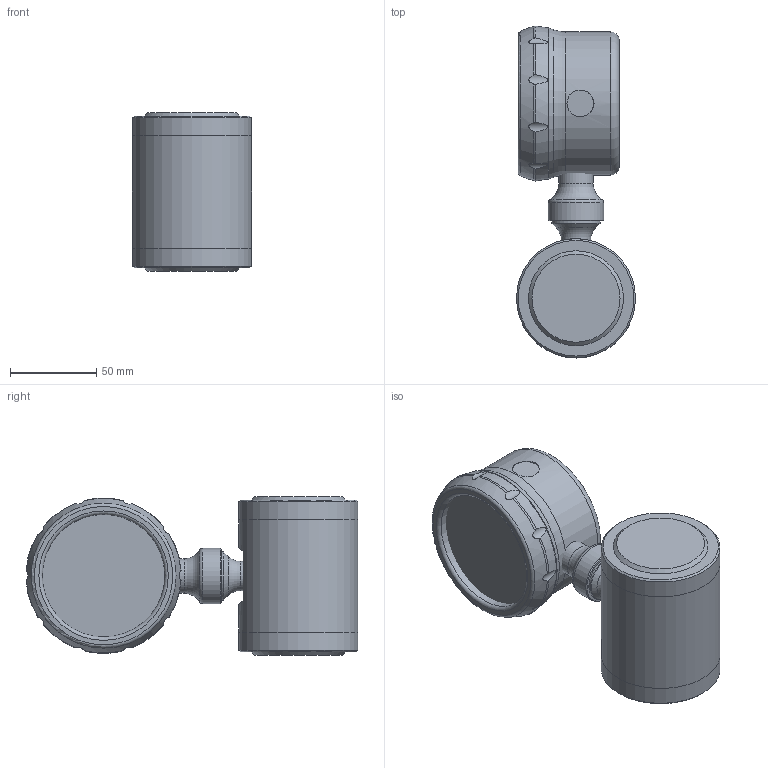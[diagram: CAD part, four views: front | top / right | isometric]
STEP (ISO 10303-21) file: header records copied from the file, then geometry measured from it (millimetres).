
FILE_DESCRIPTION( (''), '2;1');
FILE_NAME( 'QMKD_DN15_H50.5_tie-rod.step', '2024-08-30T08:46:57+08:00', (''), (''), '', '', '');
FILE_SCHEMA (('AUTOMOTIVE_DESIGN { 1 0 10303 214 3 1 1 1 }'));
Length unit declared in the file: millimetre
Products named in the file (1): QMKD DN15_H50.5_tie-rod
Bounding box: 69 x 192.31 x 92 mm (x, y, z)
Volume: 691652.9 mm3; surface area: 103762.1 mm2
Topology: 8 solids, 8 shells, 106 faces, 230 edges, 152 vertices
Faces by surface type: cylinder 37, plane 33, torus 18, cone 14, bspline 4
Full cylindrical faces by diameter (mm): 15 x2, 15.5 x1, 17 x1, 20 x1, 26 x1, 28 x1, 32 x1, 60 x2, 69 x3, 71 x1, 80 x2, 82 x5, 83 x1
Entity records: 5374 total; most frequent: CARTESIAN_POINT 3426, DIRECTION 378, ORIENTED_EDGE 322, AXIS2_PLACEMENT_3D 182, EDGE_CURVE 161, EDGE_LOOP 151, VERTEX_POINT 124, ADVANCED_FACE 101
